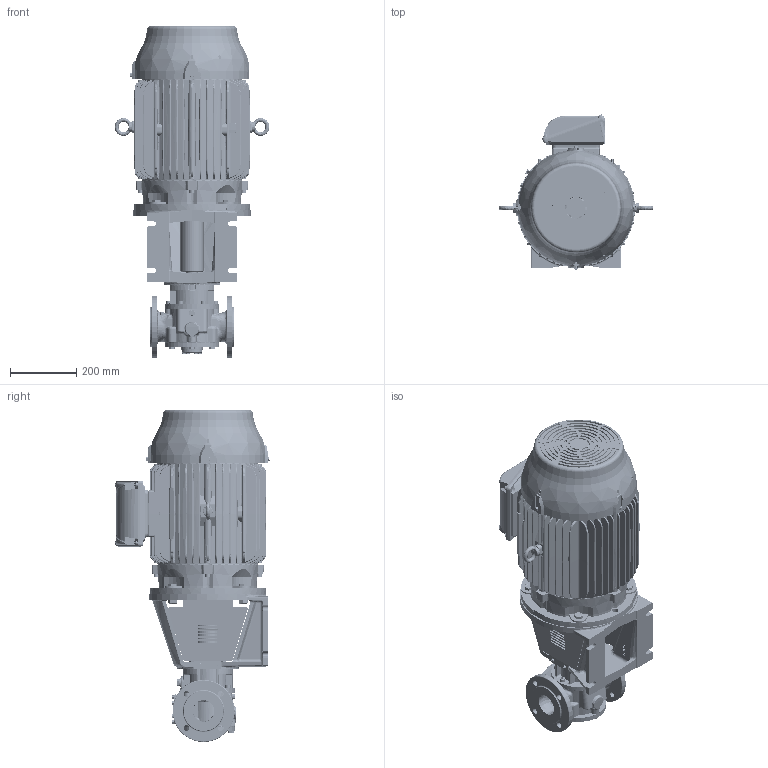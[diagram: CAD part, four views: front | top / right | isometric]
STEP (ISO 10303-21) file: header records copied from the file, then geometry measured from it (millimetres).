
FILE_DESCRIPTION(/* description */ (''),/* implementation_level */ '2;1');
FILE_NAME(/* name */ 'C:\V\JPP\Designs\GEAR PUMPS\PRODUCT ENGINEERING\EUROPE\TG BLOC\TG BLOC_23-65_R5_O_NRV-_180M-STEP.stp',/* time_stamp */ '2021-03-18T15:15:16+01:00',/* author */ ('A77THR'),/* organization */ (''),/* preprocessor_version */ 'ST-DEVELOPER v18.1',/* originating_system */ 'Autodesk Inventor 2020',/* authorisation */ '');
FILE_SCHEMA (('AUTOMOTIVE_DESIGN { 1 0 10303 214 3 1 1 }'));
Length unit declared in the file: millimetre
Products named in the file (1): TG BLOC_23-65_R5_O_NRV-_180M
Bounding box: 466 x 466.9 x 999.6 mm (x, y, z)
Volume: 54630941.8 mm3; surface area: 2532639.8 mm2
Topology: 4 solids, 4 shells, 5431 faces, 13909 edges, 8604 vertices
Faces by surface type: plane 1818, bspline 1722, cylinder 1215, cone 460, torus 162, sphere 54
Full cylindrical faces by diameter (mm): 4 x1, 4.5 x8, 4.917 x8, 5.459 x14, 6 x14, 6.647 x1, 7 x18, 8 x3, 8.376 x5, 8.5 x2, 8.7 x14, 9.188 x4, 10 x12, 10.5 x1, 11.445 x2, 11.5 x4, 11.6 x3, 12 x3, 15.011 x3, 15.4 x10, 16 x11, 17.9 x3, 18 x11, 19 x7, 21.939 x1, 22 x4, 25.9 x1, 26 x1, 29.4 x1, 30 x1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
Entity records: 264973 total; most frequent: CARTESIAN_POINT 140085, ORIENTED_EDGE 27560, DIRECTION 21821, EDGE_CURVE 13780, AXIS2_PLACEMENT_3D 8641, VERTEX_POINT 8610, EDGE_LOOP 5792, FACE_OUTER_BOUND 5431
